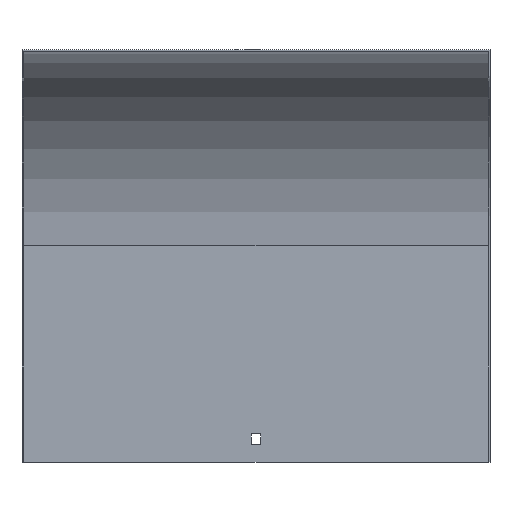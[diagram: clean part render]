
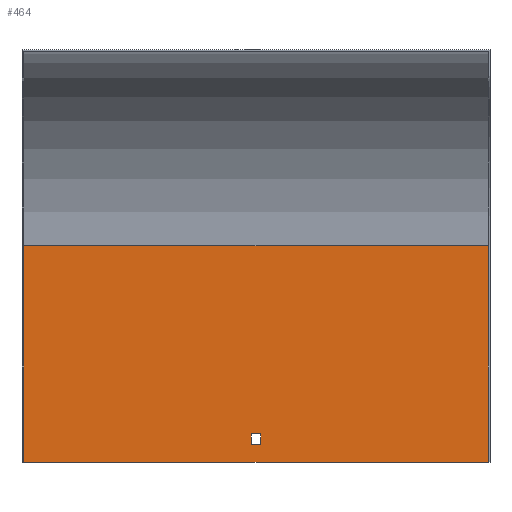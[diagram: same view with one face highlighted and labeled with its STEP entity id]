
A CAD part, top view. The second image highlights one B-rep face of the part: STEP entity #464.
In plain terms, the highlighted planar face has unit normal (0, 0, 1).
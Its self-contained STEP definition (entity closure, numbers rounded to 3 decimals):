
#7 = ORIENTED_EDGE ( 'NONE', *, *, #18, .T. ) ;
#13 = ORIENTED_EDGE ( 'NONE', *, *, #828, .T. ) ;
#18 = EDGE_CURVE ( 'NONE', #689, #519, #612, .T. ) ;
#19 = LINE ( 'NONE', #142, #127 ) ;
#37 = DIRECTION ( 'NONE',  ( 0., -1., 0. ) ) ;
#103 = VECTOR ( 'NONE', #802, 1000. ) ;
#110 = DIRECTION ( 'NONE',  ( -1., 0., 0. ) ) ;
#119 = VERTEX_POINT ( 'NONE', #702 ) ;
#127 = VECTOR ( 'NONE', #400, 1000. ) ;
#142 = CARTESIAN_POINT ( 'NONE',  ( 151., -254.5, -265. ) ) ;
#144 = ORIENTED_EDGE ( 'NONE', *, *, #750, .T. ) ;
#151 = ORIENTED_EDGE ( 'NONE', *, *, #660, .T. ) ;
#158 = VERTEX_POINT ( 'NONE', #288 ) ;
#169 = CARTESIAN_POINT ( 'NONE',  ( 3., -254.5, -265. ) ) ;
#172 = DIRECTION ( 'NONE',  ( 0., 1., 0. ) ) ;
#174 = CARTESIAN_POINT ( 'NONE',  ( 150., -126., -265. ) ) ;
#194 = VECTOR ( 'NONE', #341, 1000. ) ;
#203 = CARTESIAN_POINT ( 'NONE',  ( 3., -247.5, -265. ) ) ;
#212 = LINE ( 'NONE', #474, #194 ) ;
#217 = LINE ( 'NONE', #533, #103 ) ;
#236 = VECTOR ( 'NONE', #172, 1000. ) ;
#238 = EDGE_CURVE ( 'NONE', #367, #119, #355, .T. ) ;
#253 = LINE ( 'NONE', #797, #526 ) ;
#262 = VERTEX_POINT ( 'NONE', #169 ) ;
#266 = ORIENTED_EDGE ( 'NONE', *, *, #527, .F. ) ;
#271 = CARTESIAN_POINT ( 'NONE',  ( -3., -126., -265. ) ) ;
#288 = CARTESIAN_POINT ( 'NONE',  ( -150., -266., -265. ) ) ;
#318 = CARTESIAN_POINT ( 'NONE',  ( -3., -247.5, -265. ) ) ;
#323 = VERTEX_POINT ( 'NONE', #664 ) ;
#331 = FACE_BOUND ( 'NONE', #695, .T. ) ;
#341 = DIRECTION ( 'NONE',  ( 1., 0., 0. ) ) ;
#355 = LINE ( 'NONE', #707, #442 ) ;
#367 = VERTEX_POINT ( 'NONE', #391 ) ;
#391 = CARTESIAN_POINT ( 'NONE',  ( 150., -126., -265. ) ) ;
#400 = DIRECTION ( 'NONE',  ( -1., 0., 0. ) ) ;
#403 = DIRECTION ( 'NONE',  ( 0., 1., 0. ) ) ;
#426 = ORIENTED_EDGE ( 'NONE', *, *, #673, .T. ) ;
#433 = VECTOR ( 'NONE', #403, 1000. ) ;
#442 = VECTOR ( 'NONE', #110, 1000. ) ;
#449 = EDGE_CURVE ( 'NONE', #323, #158, #217, .T. ) ;
#459 = VERTEX_POINT ( 'NONE', #203 ) ;
#464 = ADVANCED_FACE ( 'NONE', ( #616, #331 ), #541, .T. ) ;
#474 = CARTESIAN_POINT ( 'NONE',  ( 151., -247.5, -265. ) ) ;
#494 = DIRECTION ( 'NONE',  ( 0., 0., 1. ) ) ;
#514 = EDGE_LOOP ( 'NONE', ( #266, #788, #144, #618 ) ) ;
#519 = VERTEX_POINT ( 'NONE', #318 ) ;
#526 = VECTOR ( 'NONE', #854, 1000. ) ;
#527 = EDGE_CURVE ( 'NONE', #158, #119, #253, .T. ) ;
#533 = CARTESIAN_POINT ( 'NONE',  ( 151., -266., -265. ) ) ;
#541 = PLANE ( 'NONE',  #584 ) ;
#564 = CARTESIAN_POINT ( 'NONE',  ( -3., -254.5, -265. ) ) ;
#571 = DIRECTION ( 'NONE',  ( 0., -1., 0. ) ) ;
#584 = AXIS2_PLACEMENT_3D ( 'NONE', #704, #494, #571 ) ;
#612 = LINE ( 'NONE', #271, #433 ) ;
#616 = FACE_OUTER_BOUND ( 'NONE', #514, .T. ) ;
#618 = ORIENTED_EDGE ( 'NONE', *, *, #238, .T. ) ;
#660 = EDGE_CURVE ( 'NONE', #262, #689, #19, .T. ) ;
#664 = CARTESIAN_POINT ( 'NONE',  ( 150., -266., -265. ) ) ;
#673 = EDGE_CURVE ( 'NONE', #519, #459, #212, .T. ) ;
#689 = VERTEX_POINT ( 'NONE', #564 ) ;
#695 = EDGE_LOOP ( 'NONE', ( #151, #7, #426, #13 ) ) ;
#697 = LINE ( 'NONE', #758, #840 ) ;
#702 = CARTESIAN_POINT ( 'NONE',  ( -150., -126., -265. ) ) ;
#704 = CARTESIAN_POINT ( 'NONE',  ( 151., -126., -265. ) ) ;
#707 = CARTESIAN_POINT ( 'NONE',  ( 151., -126., -265. ) ) ;
#750 = EDGE_CURVE ( 'NONE', #323, #367, #771, .T. ) ;
#758 = CARTESIAN_POINT ( 'NONE',  ( 3., -126., -265. ) ) ;
#771 = LINE ( 'NONE', #174, #236 ) ;
#788 = ORIENTED_EDGE ( 'NONE', *, *, #449, .F. ) ;
#797 = CARTESIAN_POINT ( 'NONE',  ( -150., -126., -265. ) ) ;
#802 = DIRECTION ( 'NONE',  ( -1., 0., 0. ) ) ;
#828 = EDGE_CURVE ( 'NONE', #459, #262, #697, .T. ) ;
#840 = VECTOR ( 'NONE', #37, 1000. ) ;
#854 = DIRECTION ( 'NONE',  ( 0., 1., 0. ) ) ;
